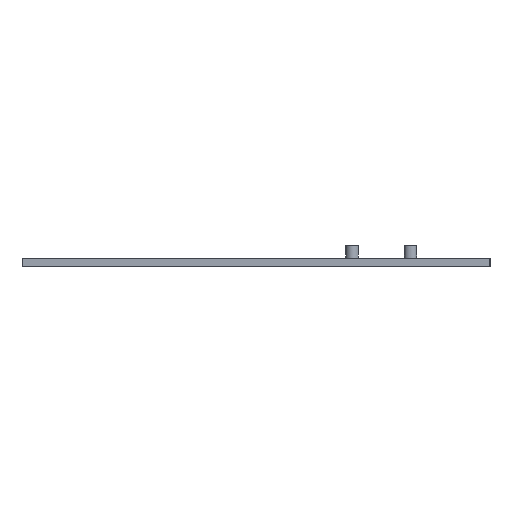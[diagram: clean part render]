
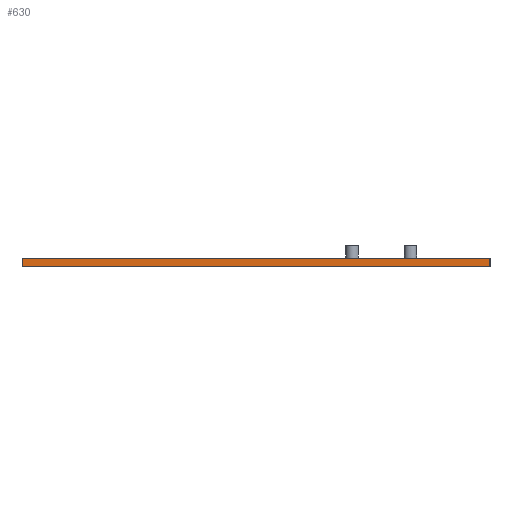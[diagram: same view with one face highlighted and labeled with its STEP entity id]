
A CAD part, left-side view. The second image highlights one B-rep face of the part: STEP entity #630.
In plain terms, the highlighted planar face has unit normal (-1, 0, 0).
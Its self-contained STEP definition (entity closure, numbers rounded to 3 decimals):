
#94 = PLANE('',#95);
#95 = AXIS2_PLACEMENT_3D('',#96,#97,#98);
#96 = CARTESIAN_POINT('',(-122.,-112.,104.));
#97 = DIRECTION('',(0.,0.,1.));
#98 = DIRECTION('',(1.,0.,0.));
#109 = EDGE_CURVE('',#110,#112,#114,.T.);
#110 = VERTEX_POINT('',#111);
#111 = CARTESIAN_POINT('',(-122.,-112.,104.));
#112 = VERTEX_POINT('',#113);
#113 = CARTESIAN_POINT('',(-122.,112.,104.));
#114 = SURFACE_CURVE('',#115,(#119,#126),.PCURVE_S1.);
#115 = LINE('',#116,#117);
#116 = CARTESIAN_POINT('',(-122.,-112.,104.));
#117 = VECTOR('',#118,1.);
#118 = DIRECTION('',(0.,1.,0.));
#119 = PCURVE('',#94,#120);
#120 = DEFINITIONAL_REPRESENTATION('',(#121),#125);
#121 = LINE('',#122,#123);
#122 = CARTESIAN_POINT('',(0.,0.));
#123 = VECTOR('',#124,1.);
#124 = DIRECTION('',(0.,1.));
#125 = ( GEOMETRIC_REPRESENTATION_CONTEXT(2) 
PARAMETRIC_REPRESENTATION_CONTEXT() REPRESENTATION_CONTEXT('2D SPACE',''
  ) );
#126 = PCURVE('',#127,#132);
#127 = PLANE('',#128);
#128 = AXIS2_PLACEMENT_3D('',#129,#130,#131);
#129 = CARTESIAN_POINT('',(-122.,-112.,100.));
#130 = DIRECTION('',(1.,0.,0.));
#131 = DIRECTION('',(0.,0.,1.));
#132 = DEFINITIONAL_REPRESENTATION('',(#133),#137);
#133 = LINE('',#134,#135);
#134 = CARTESIAN_POINT('',(4.,0.));
#135 = VECTOR('',#136,1.);
#136 = DIRECTION('',(0.,-1.));
#137 = ( GEOMETRIC_REPRESENTATION_CONTEXT(2) 
PARAMETRIC_REPRESENTATION_CONTEXT() REPRESENTATION_CONTEXT('2D SPACE',''
  ) );
#155 = PLANE('',#156);
#156 = AXIS2_PLACEMENT_3D('',#157,#158,#159);
#157 = CARTESIAN_POINT('',(-122.,-112.,100.));
#158 = DIRECTION('',(0.,1.,0.));
#159 = DIRECTION('',(0.,0.,1.));
#209 = PLANE('',#210);
#210 = AXIS2_PLACEMENT_3D('',#211,#212,#213);
#211 = CARTESIAN_POINT('',(-122.,112.,100.));
#212 = DIRECTION('',(0.,1.,0.));
#213 = DIRECTION('',(0.,0.,1.));
#630 = ADVANCED_FACE('',(#631),#127,.F.);
#631 = FACE_BOUND('',#632,.F.);
#632 = EDGE_LOOP('',(#633,#656,#684,#705));
#633 = ORIENTED_EDGE('',*,*,#634,.F.);
#634 = EDGE_CURVE('',#635,#110,#637,.T.);
#635 = VERTEX_POINT('',#636);
#636 = CARTESIAN_POINT('',(-122.,-112.,100.));
#637 = SURFACE_CURVE('',#638,(#642,#649),.PCURVE_S1.);
#638 = LINE('',#639,#640);
#639 = CARTESIAN_POINT('',(-122.,-112.,100.));
#640 = VECTOR('',#641,1.);
#641 = DIRECTION('',(0.,0.,1.));
#642 = PCURVE('',#127,#643);
#643 = DEFINITIONAL_REPRESENTATION('',(#644),#648);
#644 = LINE('',#645,#646);
#645 = CARTESIAN_POINT('',(0.,0.));
#646 = VECTOR('',#647,1.);
#647 = DIRECTION('',(1.,0.));
#648 = ( GEOMETRIC_REPRESENTATION_CONTEXT(2) 
PARAMETRIC_REPRESENTATION_CONTEXT() REPRESENTATION_CONTEXT('2D SPACE',''
  ) );
#649 = PCURVE('',#155,#650);
#650 = DEFINITIONAL_REPRESENTATION('',(#651),#655);
#651 = LINE('',#652,#653);
#652 = CARTESIAN_POINT('',(0.,0.));
#653 = VECTOR('',#654,1.);
#654 = DIRECTION('',(1.,0.));
#655 = ( GEOMETRIC_REPRESENTATION_CONTEXT(2) 
PARAMETRIC_REPRESENTATION_CONTEXT() REPRESENTATION_CONTEXT('2D SPACE',''
  ) );
#656 = ORIENTED_EDGE('',*,*,#657,.T.);
#657 = EDGE_CURVE('',#635,#658,#660,.T.);
#658 = VERTEX_POINT('',#659);
#659 = CARTESIAN_POINT('',(-122.,112.,100.));
#660 = SURFACE_CURVE('',#661,(#665,#672),.PCURVE_S1.);
#661 = LINE('',#662,#663);
#662 = CARTESIAN_POINT('',(-122.,-112.,100.));
#663 = VECTOR('',#664,1.);
#664 = DIRECTION('',(0.,1.,0.));
#665 = PCURVE('',#127,#666);
#666 = DEFINITIONAL_REPRESENTATION('',(#667),#671);
#667 = LINE('',#668,#669);
#668 = CARTESIAN_POINT('',(0.,0.));
#669 = VECTOR('',#670,1.);
#670 = DIRECTION('',(0.,-1.));
#671 = ( GEOMETRIC_REPRESENTATION_CONTEXT(2) 
PARAMETRIC_REPRESENTATION_CONTEXT() REPRESENTATION_CONTEXT('2D SPACE',''
  ) );
#672 = PCURVE('',#673,#678);
#673 = PLANE('',#674);
#674 = AXIS2_PLACEMENT_3D('',#675,#676,#677);
#675 = CARTESIAN_POINT('',(-122.,-112.,100.));
#676 = DIRECTION('',(0.,0.,1.));
#677 = DIRECTION('',(1.,0.,0.));
#678 = DEFINITIONAL_REPRESENTATION('',(#679),#683);
#679 = LINE('',#680,#681);
#680 = CARTESIAN_POINT('',(0.,0.));
#681 = VECTOR('',#682,1.);
#682 = DIRECTION('',(0.,1.));
#683 = ( GEOMETRIC_REPRESENTATION_CONTEXT(2) 
PARAMETRIC_REPRESENTATION_CONTEXT() REPRESENTATION_CONTEXT('2D SPACE',''
  ) );
#684 = ORIENTED_EDGE('',*,*,#685,.T.);
#685 = EDGE_CURVE('',#658,#112,#686,.T.);
#686 = SURFACE_CURVE('',#687,(#691,#698),.PCURVE_S1.);
#687 = LINE('',#688,#689);
#688 = CARTESIAN_POINT('',(-122.,112.,100.));
#689 = VECTOR('',#690,1.);
#690 = DIRECTION('',(0.,0.,1.));
#691 = PCURVE('',#127,#692);
#692 = DEFINITIONAL_REPRESENTATION('',(#693),#697);
#693 = LINE('',#694,#695);
#694 = CARTESIAN_POINT('',(0.,-224.));
#695 = VECTOR('',#696,1.);
#696 = DIRECTION('',(1.,0.));
#697 = ( GEOMETRIC_REPRESENTATION_CONTEXT(2) 
PARAMETRIC_REPRESENTATION_CONTEXT() REPRESENTATION_CONTEXT('2D SPACE',''
  ) );
#698 = PCURVE('',#209,#699);
#699 = DEFINITIONAL_REPRESENTATION('',(#700),#704);
#700 = LINE('',#701,#702);
#701 = CARTESIAN_POINT('',(0.,0.));
#702 = VECTOR('',#703,1.);
#703 = DIRECTION('',(1.,0.));
#704 = ( GEOMETRIC_REPRESENTATION_CONTEXT(2) 
PARAMETRIC_REPRESENTATION_CONTEXT() REPRESENTATION_CONTEXT('2D SPACE',''
  ) );
#705 = ORIENTED_EDGE('',*,*,#109,.F.);
